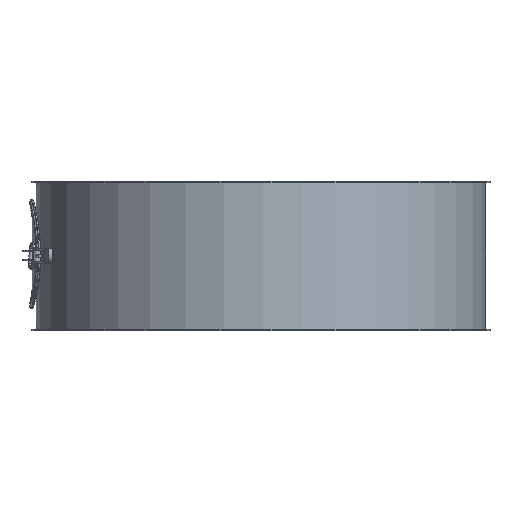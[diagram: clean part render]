
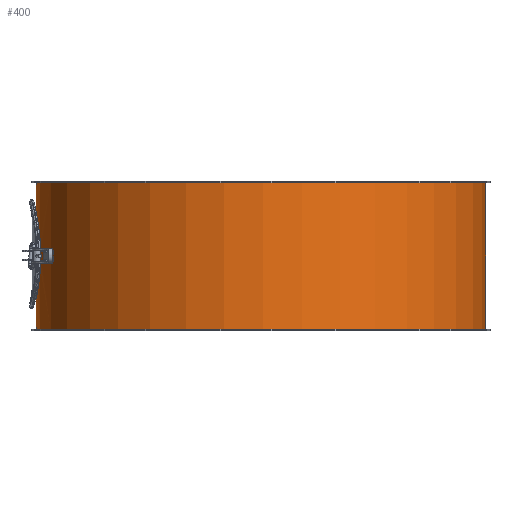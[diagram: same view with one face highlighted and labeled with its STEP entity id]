
A CAD part, front view. The second image highlights one B-rep face of the part: STEP entity #400.
In plain terms, the highlighted cylindrical face has radius 300.5 mm (diameter 601 mm), a full revolution.
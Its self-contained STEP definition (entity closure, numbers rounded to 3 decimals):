
#143=CARTESIAN_POINT('',(300.5,0.,198.0));
#144=VERTEX_POINT('',#143);
#145=CARTESIAN_POINT('',(0.0,0.0,198.0));
#146=DIRECTION('',(0.0,0.0,-1.0));
#147=DIRECTION('',(-1.0,0.0,0.0));
#148=AXIS2_PLACEMENT_3D('',#145,#146,#147);
#149=CIRCLE('',#148,300.5);
#150=EDGE_CURVE('',#144,#144,#149,.T.);
#191=CARTESIAN_POINT('',(-300.5,0.,2.0));
#192=VERTEX_POINT('',#191);
#193=CARTESIAN_POINT('',(0.0,0.0,2.0));
#194=DIRECTION('',(0.0,0.0,1.0));
#195=DIRECTION('',(-1.0,0.0,0.0));
#196=AXIS2_PLACEMENT_3D('',#193,#194,#195);
#197=CIRCLE('',#196,300.5);
#198=EDGE_CURVE('',#192,#192,#197,.T.);
#281=CARTESIAN_POINT('',(-294.947,-57.5,100.0));
#282=VERTEX_POINT('',#281);
#283=CARTESIAN_POINT('',(-294.947,-57.5,100.0));
#284=CARTESIAN_POINT('',(-294.947,-57.5,96.38));
#285=CARTESIAN_POINT('',(-295.016,-57.153,92.64));
#286=CARTESIAN_POINT('',(-295.295,-55.693,85.206));
#287=CARTESIAN_POINT('',(-295.505,-54.581,81.511));
#288=CARTESIAN_POINT('',(-296.033,-51.644,74.431));
#289=CARTESIAN_POINT('',(-296.35,-49.817,71.038));
#290=CARTESIAN_POINT('',(-297.028,-45.598,64.768));
#291=CARTESIAN_POINT('',(-297.389,-43.206,61.889));
#292=CARTESIAN_POINT('',(-298.085,-38.111,56.794));
#293=CARTESIAN_POINT('',(-298.444,-35.233,54.402));
#294=CARTESIAN_POINT('',(-299.118,-28.962,50.183));
#295=CARTESIAN_POINT('',(-299.431,-25.569,48.356));
#296=CARTESIAN_POINT('',(-299.952,-18.489,45.419));
#297=CARTESIAN_POINT('',(-300.159,-14.794,44.307));
#298=CARTESIAN_POINT('',(-300.433,-7.36,42.847));
#299=CARTESIAN_POINT('',(-300.5,-3.619,42.5));
#300=CARTESIAN_POINT('',(-300.5,3.619,42.5));
#301=CARTESIAN_POINT('',(-300.433,7.36,42.847));
#302=CARTESIAN_POINT('',(-300.159,14.794,44.307));
#303=CARTESIAN_POINT('',(-299.952,18.489,45.419));
#304=CARTESIAN_POINT('',(-299.431,25.569,48.356));
#305=CARTESIAN_POINT('',(-299.118,28.962,50.183));
#306=CARTESIAN_POINT('',(-298.444,35.233,54.402));
#307=CARTESIAN_POINT('',(-298.085,38.111,56.794));
#308=CARTESIAN_POINT('',(-297.389,43.206,61.889));
#309=CARTESIAN_POINT('',(-297.028,45.598,64.768));
#310=CARTESIAN_POINT('',(-296.35,49.817,71.038));
#311=CARTESIAN_POINT('',(-296.033,51.644,74.431));
#312=CARTESIAN_POINT('',(-295.505,54.581,81.511));
#313=CARTESIAN_POINT('',(-295.295,55.693,85.206));
#314=CARTESIAN_POINT('',(-295.016,57.153,92.64));
#315=CARTESIAN_POINT('',(-294.947,57.5,96.38));
#316=CARTESIAN_POINT('',(-294.947,57.5,103.62));
#317=CARTESIAN_POINT('',(-295.016,57.153,107.36));
#318=CARTESIAN_POINT('',(-295.295,55.693,114.794));
#319=CARTESIAN_POINT('',(-295.505,54.581,118.489));
#320=CARTESIAN_POINT('',(-296.033,51.644,125.569));
#321=CARTESIAN_POINT('',(-296.35,49.817,128.962));
#322=CARTESIAN_POINT('',(-297.028,45.598,135.232));
#323=CARTESIAN_POINT('',(-297.389,43.206,138.111));
#324=CARTESIAN_POINT('',(-298.085,38.111,143.206));
#325=CARTESIAN_POINT('',(-298.444,35.233,145.598));
#326=CARTESIAN_POINT('',(-299.118,28.962,149.817));
#327=CARTESIAN_POINT('',(-299.431,25.569,151.644));
#328=CARTESIAN_POINT('',(-299.952,18.489,154.581));
#329=CARTESIAN_POINT('',(-300.159,14.794,155.693));
#330=CARTESIAN_POINT('',(-300.433,7.36,157.153));
#331=CARTESIAN_POINT('',(-300.5,3.619,157.5));
#332=CARTESIAN_POINT('',(-300.5,-3.619,157.5));
#333=CARTESIAN_POINT('',(-300.433,-7.36,157.153));
#334=CARTESIAN_POINT('',(-300.159,-14.794,155.693));
#335=CARTESIAN_POINT('',(-299.952,-18.489,154.581));
#336=CARTESIAN_POINT('',(-299.431,-25.569,151.644));
#337=CARTESIAN_POINT('',(-299.118,-28.962,149.817));
#338=CARTESIAN_POINT('',(-298.444,-35.233,145.598));
#339=CARTESIAN_POINT('',(-298.085,-38.111,143.206));
#340=CARTESIAN_POINT('',(-297.389,-43.206,138.111));
#341=CARTESIAN_POINT('',(-297.028,-45.598,135.232));
#342=CARTESIAN_POINT('',(-296.35,-49.817,128.962));
#343=CARTESIAN_POINT('',(-296.033,-51.644,125.569));
#344=CARTESIAN_POINT('',(-295.505,-54.581,118.489));
#345=CARTESIAN_POINT('',(-295.295,-55.693,114.794));
#346=CARTESIAN_POINT('',(-295.016,-57.153,107.36));
#347=CARTESIAN_POINT('',(-294.947,-57.5,103.62));
#348=CARTESIAN_POINT('',(-294.947,-57.5,100.));
#349=B_SPLINE_CURVE_WITH_KNOTS('',3,(#283,#284,#285,#286,#287,#288,#289,#290,#291,#292,#293,#294,#295,#296,#297,#298,#299,#300,#301,#302,#303,#304,#305,#306,#307,#308,#309,#310,#311,#312,#313,#314,#315,#316,#317,#318,#319,#320,#321,#322,#323,#324,#325,#326,#327,#328,#329,#330,#331,#332,#333,#334,#335,#336,#337,#338,#339,#340,#341,#342,#343,#344,#345,#346,#347,#348),.UNSPECIFIED.,.T.,.U.,(4,2,2,2,2,2,2,2,2,2,2,2,2,2,2,2,2,2,2,2,2,2,2,2,2,2,2,2,2,2,2,2,4),(0.0,1.086,2.172,3.258,4.344,5.429,6.515,7.601,8.687,9.773,10.859,11.944,13.03,14.116,15.202,16.288,17.374,18.46,19.546,20.631,21.717,22.803,23.889,24.975,26.061,27.146,28.232,29.318,30.404,31.49,32.576,33.662,34.747),.UNSPECIFIED.);
#350=EDGE_CURVE('',#282,#282,#349,.T.);
#386=CARTESIAN_POINT('',(0.0,0.0,0.0));
#387=DIRECTION('',(0.0,0.0,1.0));
#388=DIRECTION('',(-1.0,0.0,0.0));
#389=AXIS2_PLACEMENT_3D('',#386,#387,#388);
#390=CYLINDRICAL_SURFACE('',#389,300.5);
#391=ORIENTED_EDGE('',*,*,#150,.T.);
#392=EDGE_LOOP('',(#391));
#393=FACE_OUTER_BOUND('',#392,.T.);
#394=ORIENTED_EDGE('',*,*,#198,.T.);
#395=EDGE_LOOP('',(#394));
#396=FACE_BOUND('',#395,.T.);
#397=ORIENTED_EDGE('',*,*,#350,.T.);
#398=EDGE_LOOP('',(#397));
#399=FACE_BOUND('',#398,.T.);
#400=ADVANCED_FACE('',(#393,#396,#399),#390,.T.);
